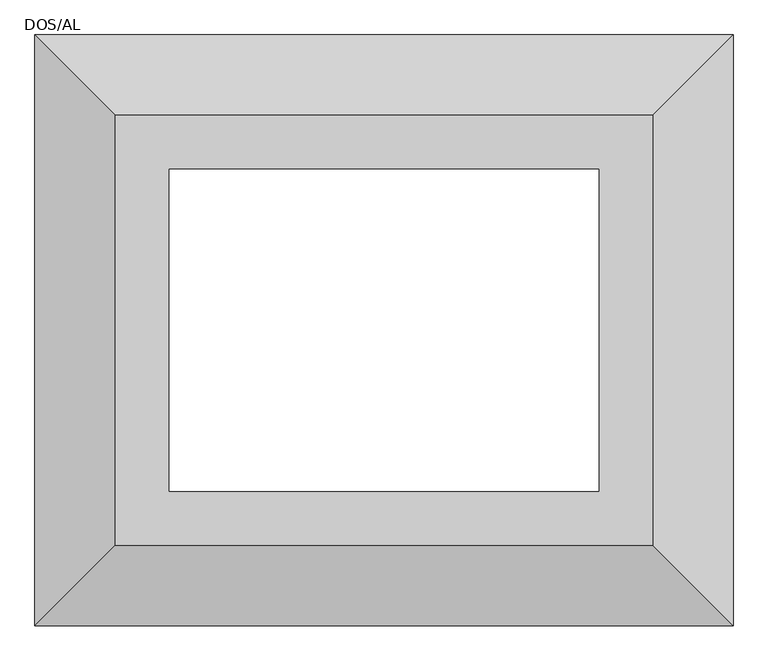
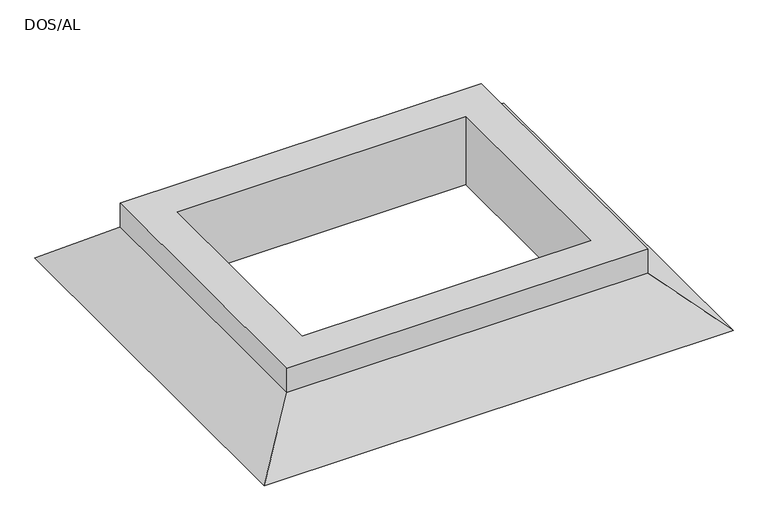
"""IFC4 building model written with IfcOpenShell, lengths in millimetres: duct fitting geometry, DUF_FB_Roof mounting DOS-AL_SH_SMA : DOS/AL."""

from ifc_helpers import new_model, si_unit, origin, place, context, project, spatial, faceted_brep, source, transform, mapped, element, save


def dos_al_2472da44(model_context):
    return source(origin(), model_context, "Body", "Brep", [
        faceted_brep([(400.0, 300.0, 200.0), (400.0, 300.0, 0.0), (400.0, -300.0, 0.0), (400.0, -300.0, 200.0), (500.0, 400.0, 130.0), (500.0, 400.0, 200.0), (500.0, -400.0, 200.0), (500.0, -400.0, 130.0), (650.0, 550.0, 0.0), (650.0, -550.0, 0.0), (-400.0, -300.0, 0.0), (-400.0, -300.0, 200.0), (-500.0, -400.0, 200.0), (-500.0, -400.0, 130.0), (-650.0, -550.0, 0.0), (-400.0, 300.0, 0.0), (-400.0, 300.0, 200.0), (-500.0, 400.0, 200.0), (-500.0, 400.0, 130.0), (-650.0, 550.0, 0.0)], [[[0, 1, 2, 3]], [[4, 5, 6, 7]], [[8, 4, 7, 9]], [[3, 2, 10, 11]], [[7, 6, 12, 13]], [[9, 7, 13, 14]], [[11, 10, 15, 16]], [[13, 12, 17, 18]], [[14, 13, 18, 19]], [[9, 14, 19, 8], [1, 15, 10, 2]], [[16, 15, 1, 0]], [[5, 17, 12, 6], [3, 11, 16, 0]], [[18, 17, 5, 4]], [[19, 18, 4, 8]]]),
    ])


if __name__ == "__main__":
    model = new_model("IFC4")
    model_context = context("Model", 3, world=origin())
    ifc_project = project(units=[si_unit("LENGTHUNIT", "METRE", prefix="MILLI")], contexts=[model_context])
    site = spatial("IfcSite", under=ifc_project)
    building = spatial("IfcBuilding", under=site)
    placement = place(None, origin())
    dos_al_shape = dos_al_2472da44(model_context)
    element("IfcDuctFitting", 1, ObjectType="DUF_FB_Roof mounting DOS-AL_SH_SMA : DOS/AL", at=placement, inside=building, context=model_context, shape_type="MappedRepresentation", body=[
        mapped(dos_al_shape, transform((0.0, 0.0, 0.0), x_axis=(1.0, 0.0, 0.0), y_axis=(0.0, 1.0, 0.0), z_axis=(0.0, 0.0, 1.0))),
    ])
    save(model, "model.ifc")
